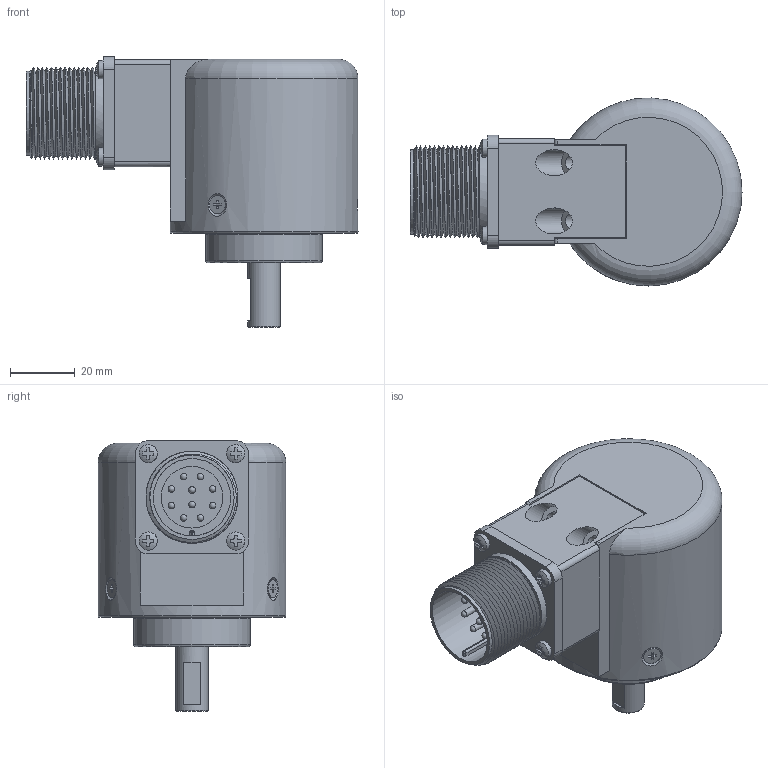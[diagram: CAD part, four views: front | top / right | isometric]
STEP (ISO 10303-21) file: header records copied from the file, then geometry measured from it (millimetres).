
FILE_DESCRIPTION( ( 'Unknown' ), '1' );
FILE_NAME( 'C:/Users/malfermoa/Desktop/step/EL_58C_albero 10 X uscita MR.stp', 'Unknown', ( 'Unknown' ), ( 'Unknown' ), 'PSStep 15.0.49', 'Unknown', ' ' );
FILE_SCHEMA( ( 'AUTOMOTIVE_DESIGN { 1 0 10303 214 1 1 1 1 }' ) );
Length unit declared in the file: millimetre
Products named in the file (1): 41320317F1
Bounding box: 102.5 x 58 x 83.6 mm (x, y, z)
Volume: 92297.7 mm3; surface area: 58040.3 mm2
Topology: 1 solids, 9 shells, 665 faces, 1733 edges, 1117 vertices
Faces by surface type: plane 270, cylinder 222, bspline 58, torus 56, cone 43, sphere 16
Full cylindrical faces by diameter (mm): 2 x22, 2.05 x2, 2.1 x3, 2.2 x12, 2.459 x3, 2.5 x10, 2.6 x10, 3 x7, 3.5 x3, 4.5 x2, 5.6 x7, 6 x1, 7 x1, 8 x2, 10 x10, 10.5 x1, 11 x1, 12 x1, 13.8 x1, 19 x1, 20 x1, 22 x2, 23 x1, 23.9 x1, 25.2 x1, 26 x15, 28.4 x1, 36 x1, 49.6 x1, 53.8 x2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
Entity records: 40006 total; most frequent: CARTESIAN_POINT 21271, ORIENTED_EDGE 2684, DIRECTION 2680, EDGE_CURVE 1342, AXIS2_PLACEMENT_3D 1063, VERTEX_POINT 957, EDGE_LOOP 881, FACE_OUTER_BOUND 753
